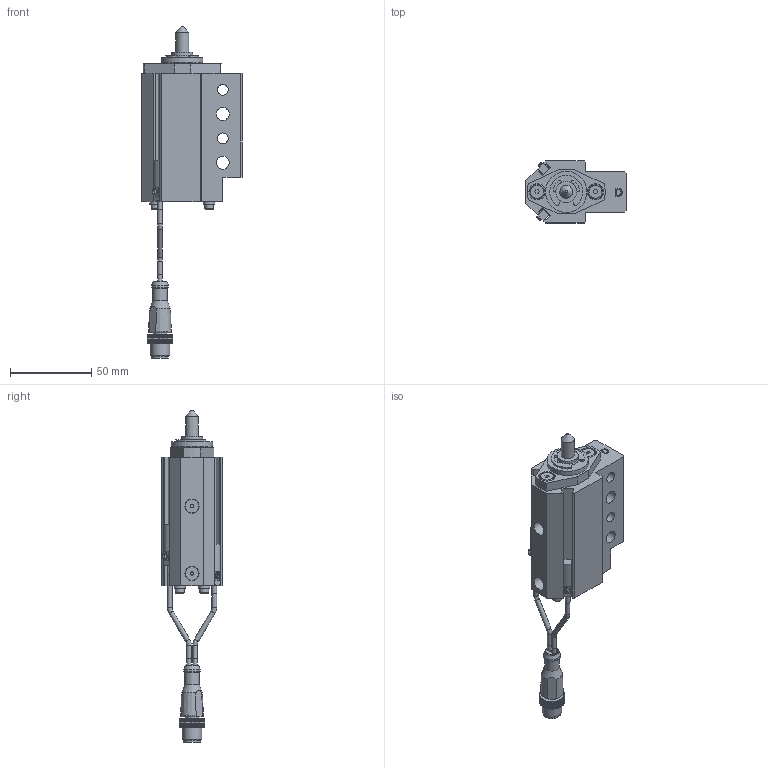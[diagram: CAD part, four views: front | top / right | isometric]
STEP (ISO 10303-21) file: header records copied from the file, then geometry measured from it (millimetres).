
FILE_DESCRIPTION(/* description */ ('NAAMS FLOATING MICRO PIN'),/* implementation_level */ '2;1');
FILE_NAME(/* name */ 'C:\Vault Workspace\CAD\Welker\Shot Pin\NMP\NMP080012DANL3.stp',/* time_stamp */ '2021-01-27T08:33:30-05:00',/* author */ ('WELKER'),/* organization */ (''),/* preprocessor_version */ 'ST-DEVELOPER v18.1',/* originating_system */ 'Autodesk Inventor 2020',/* authorisation */ '');
FILE_SCHEMA (('AUTOMOTIVE_DESIGN { 1 0 10303 214 3 1 1 }'));
Length unit declared in the file: millimetre
Products named in the file (16): NMPL01; NMP L3 SWITCH; L3 Connector; L3 Sensor 1; L3 Sensor 2; L3 Sensor cable; L3 Sensor cable 2; M3X0.5-8 SHCS; NL3; NMPE06; NMPE03; NMPE05-DIA-LENGTH; 985432A218; NMPE01D-PORT; RMPE02; M5X5 SHOULDER
Assembly tree (22 placements, depth 3):
  NMPL01
    NMP L3 SWITCH
      L3 Connector
      L3 Sensor 1
      L3 Sensor 2
      L3 Sensor cable
      L3 Sensor cable 2
    M3X0.5-8 SHCS  x4
    NL3  x4
    NMPE06
    NMPE03
    NMPE05-DIA-LENGTH
    985432A218
    NMPE01D-PORT
    RMPE02
    M5X5 SHOULDER  x2
Bounding box: 62 x 38.1 x 204.73 mm (x, y, z)
Volume: 111515.9 mm3; surface area: 44946.3 mm2
Topology: 21 solids, 21 shells, 747 faces, 2022 edges, 1352 vertices
Faces by surface type: plane 548, cylinder 144, cone 31, torus 11, bspline 10, sphere 3
Full cylindrical faces by diameter (mm): 2 x2, 2.459 x4, 2.9 x10, 3 x5, 3.242 x2, 3.4 x4, 4 x2, 5 x6, 5.5 x4, 6.647 x2, 7 x4, 8 x3, 8.3 x2, 9 x3, 10 x3, 10.4 x1, 10.5 x1, 12 x1, 13 x3, 16 x2, 19.05 x3, 21 x1, 22.5 x1, 23.672 x1, 24 x1, 25.4 x1, 25.5 x1, 26.5 x1, 28.677 x1, 29.21 x1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
Entity records: 22825 total; most frequent: CARTESIAN_POINT 4228, ORIENTED_EDGE 3742, DIRECTION 3699, EDGE_CURVE 1871, LINE 1375, VECTOR 1375, VERTEX_POINT 1257, AXIS2_PLACEMENT_3D 1162
